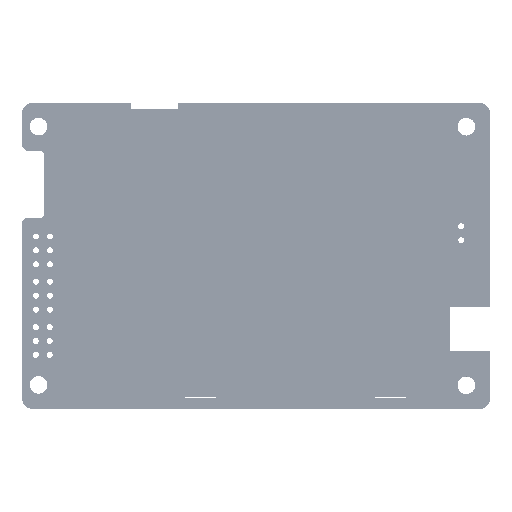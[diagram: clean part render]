
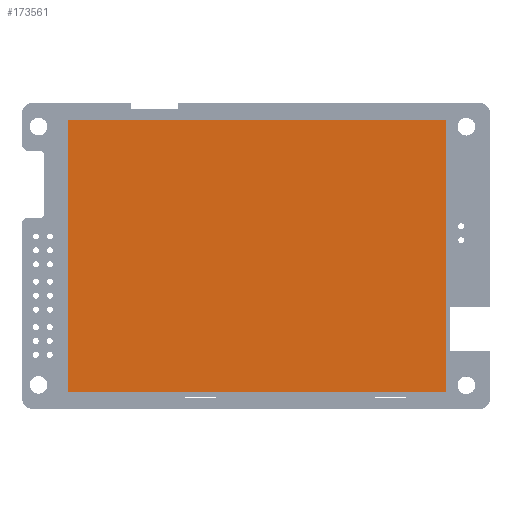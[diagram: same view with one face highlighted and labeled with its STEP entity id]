
A CAD part, top view. The second image highlights one B-rep face of the part: STEP entity #173561.
In plain terms, the highlighted planar face has unit normal (0, 0, 1) as drawn and (0, 1, 0) by its records, which use the part's own axes.
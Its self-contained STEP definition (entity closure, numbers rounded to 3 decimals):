
#18716=FACE_OUTER_BOUND('',#28216,.T.);
#28216=EDGE_LOOP('',(#157553,#157554,#157555,#157556));
#50389=LINE('',#329689,#70351);
#50391=LINE('',#329693,#70353);
#50393=LINE('',#329697,#70355);
#50395=LINE('',#329700,#70357);
#70351=VECTOR('',#229206,10.);
#70353=VECTOR('',#229210,10.);
#70355=VECTOR('',#229214,10.);
#70357=VECTOR('',#229218,10.);
#85899=VERTEX_POINT('',#329686);
#85900=VERTEX_POINT('',#329688);
#85901=VERTEX_POINT('',#329692);
#85902=VERTEX_POINT('',#329696);
#109785=EDGE_CURVE('',#85900,#85899,#50389,.T.);
#109787=EDGE_CURVE('',#85901,#85900,#50391,.T.);
#109789=EDGE_CURVE('',#85902,#85901,#50393,.T.);
#109791=EDGE_CURVE('',#85899,#85902,#50395,.T.);
#157553=ORIENTED_EDGE('',*,*,#109791,.T.);
#157554=ORIENTED_EDGE('',*,*,#109789,.T.);
#157555=ORIENTED_EDGE('',*,*,#109787,.T.);
#157556=ORIENTED_EDGE('',*,*,#109785,.T.);
#164514=PLANE('',#186873);
#173561=ADVANCED_FACE('',(#18716),#164514,.T.);
#186873=AXIS2_PLACEMENT_3D('',#329701,#229219,#229220);
#229206=DIRECTION('',(0.,0.,1.));
#229210=DIRECTION('',(-1.,0.,0.));
#229214=DIRECTION('',(0.,0.,-1.));
#229218=DIRECTION('',(1.,0.,0.));
#229219=DIRECTION('center_axis',(0.,1.,0.));
#229220=DIRECTION('ref_axis',(0.,0.,1.));
#329686=CARTESIAN_POINT('',(-49.6,0.6,0.));
#329688=CARTESIAN_POINT('',(-49.6,0.6,-68.8));
#329689=CARTESIAN_POINT('',(-49.6,0.6,0.));
#329692=CARTESIAN_POINT('',(0.,0.6,-68.8));
#329693=CARTESIAN_POINT('',(-49.6,0.6,-68.8));
#329696=CARTESIAN_POINT('',(0.,0.6,0.));
#329697=CARTESIAN_POINT('',(0.,0.6,-68.8));
#329700=CARTESIAN_POINT('',(0.,0.6,0.));
#329701=CARTESIAN_POINT('Origin',(-24.8,0.6,-34.4));
